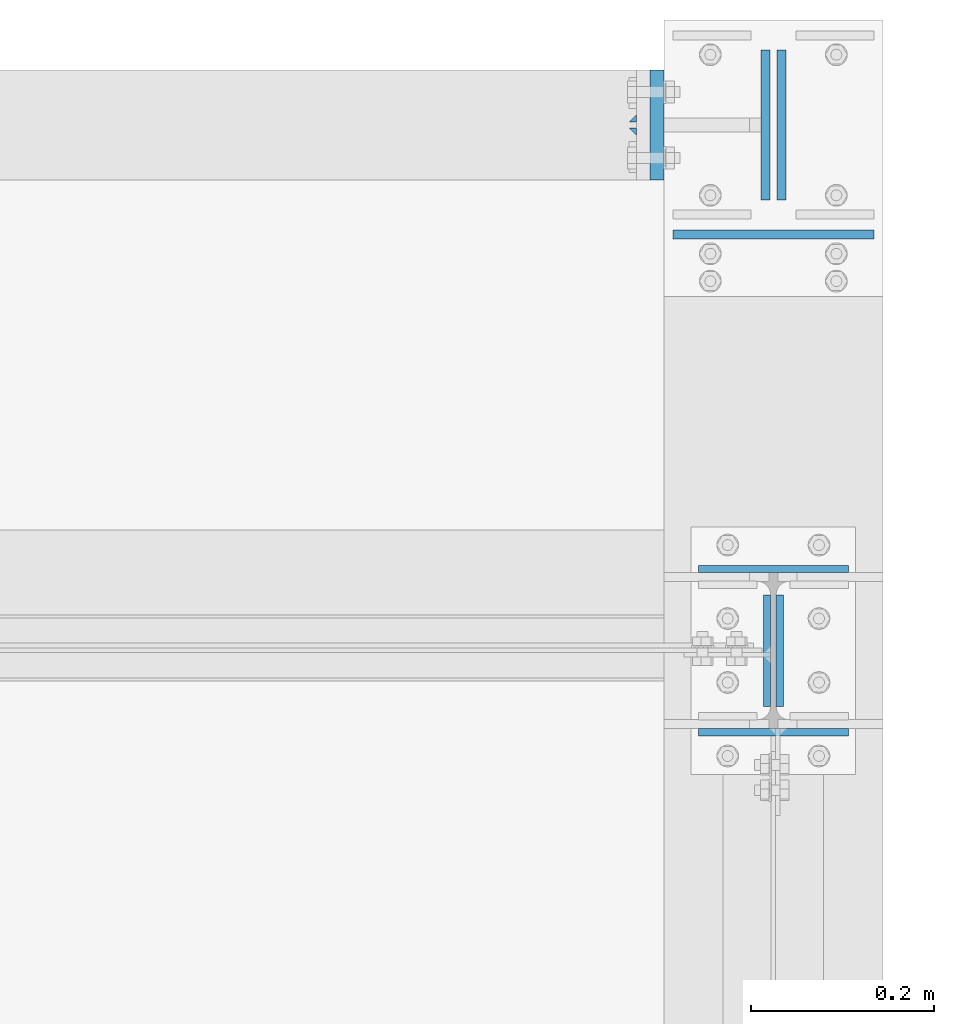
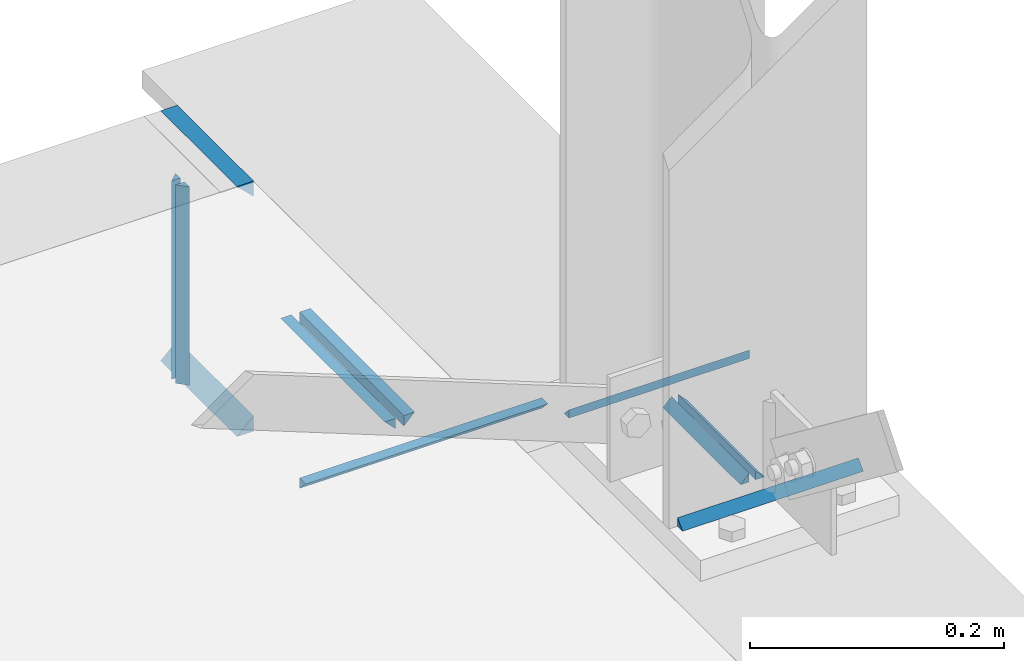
# One storey, part 25 of 66: 20 fasteners.
"""IFC4 building model written with IfcOpenShell, lengths in metres."""

from ifc_helpers import new_model, si_unit, frame, origin_with_axes, place, context, project, spatial, polyline, outline, extrude, type_object, element, save


model = new_model("IFC4")

# Units and contexts
model_context = context("Model", 3, precision=1e-05, world=origin_with_axes())
ifc_project = project(units=[si_unit("LENGTHUNIT", "METRE"), si_unit("AREAUNIT", "SQUARE_METRE"), si_unit("VOLUMEUNIT", "CUBIC_METRE"), si_unit("MASSUNIT", "GRAM", prefix="KILO"), si_unit("TIMEUNIT", "SECOND"), si_unit("PLANEANGLEUNIT", "RADIAN"), si_unit("SOLIDANGLEUNIT", "STERADIAN"), si_unit("THERMODYNAMICTEMPERATUREUNIT", "DEGREE_CELSIUS")], contexts=[model_context])

# Site, building, storey
placement_1 = place(None, origin_with_axes())
site = spatial("IfcSite", under=ifc_project, at=placement_1, Name="Italia", CompositionType="ELEMENT")
building = spatial("IfcBuilding", under=site, at=placement_1, Name="Uffici", CompositionType="ELEMENT")
storey_placement = place(None, frame((0.0, 0.0, 3.299999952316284), z_axis=(0.0, 0.0, 1.0), x_axis=(1.0, 0.0, 0.0)))
storey = spatial("IfcBuildingStorey", under=building, at=storey_placement, Name="Storey 1", CompositionType="ELEMENT", Elevation=3.299999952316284)

# Fasteners
fastener_type_1 = type_object("IfcFastenerType", Name="Collegamenti -005_-004 -015_-014 0115_0114", PredefinedType="WELD")
placement_2 = place(placement_1, origin_with_axes())
fastener_1_placement = place(placement_2, origin_with_axes())
element("IfcFastener", 1, at=fastener_1_placement, inside=storey, type_object=fastener_type_1, Name="Collegamenti -005_-004 -015_-014 0115_0114", context=model_context, shape_type="SweptSolid", body=[
    extrude(outline(polyline([(0.0, 0.0), (0.00792837, 0.00817299), (0.00792837, 0.0), (0.0, 0.0)])), frame((13.8201, 5.37902, 3.08475), z_axis=(0.0, 0.0, 1.0), x_axis=(0.0, 1.0, 0.0)), (0.0, 0.0, 1.0), 0.1905),
])
fastener_type_2 = type_object("IfcFastenerType", Name="Collegamenti -005_-004 -015_-014 0115_0114", PredefinedType="WELD")
fastener_2_placement = place(placement_2, origin_with_axes())
element("IfcFastener", 2, at=fastener_2_placement, inside=storey, type_object=fastener_type_2, Name="Collegamenti -005_-004 -015_-014 0115_0114", context=model_context, shape_type="SweptSolid", body=[
    extrude(outline(polyline([(0.0, 0.0), (-0.00792837, -0.00817299), (-0.00792837, 0.0), (0.0, 0.0)])), frame((13.8201, 5.40098, 3.27525), z_axis=(0.0, 0.0, -1.0), x_axis=(0.0, 1.0, 0.0)), (0.0, 0.0, 1.0), 0.1905),
])
fastener_type_3 = type_object("IfcFastenerType", Name="Collegamenti -005_-004 -015_-014 0115_0114", PredefinedType="WELD")
fastener_3_placement = place(placement_2, origin_with_axes())
element("IfcFastener", 3, at=fastener_3_placement, inside=storey, type_object=fastener_type_3, Name="Collegamenti -005_-004 -015_-014 0115_0114", context=model_context, shape_type="SweptSolid", body=[
    extrude(outline(polyline([(0.0, 0.0), (0.00792837, 0.00817299), (0.00792837, 0.0), (0.0, 0.0)])), frame((13.8201, 5.37902, 3.08475), z_axis=(0.0, 0.0, 1.0), x_axis=(0.0, 1.0, 0.0)), (0.0, 0.0, 1.0), 0.1905),
])
fastener_type_4 = type_object("IfcFastenerType", Name="Collegamenti -005_-004 -015_-014 0115_0114", PredefinedType="WELD")
fastener_4_placement = place(placement_2, origin_with_axes())
element("IfcFastener", 4, at=fastener_4_placement, inside=storey, type_object=fastener_type_4, Name="Collegamenti -005_-004 -015_-014 0115_0114", context=model_context, shape_type="SweptSolid", body=[
    extrude(outline(polyline([(0.0, 0.0), (-0.00792837, -0.00817299), (-0.00792837, 0.0), (0.0, 0.0)])), frame((13.8201, 5.40098, 3.27525), z_axis=(0.0, 0.0, -1.0), x_axis=(0.0, 1.0, 0.0)), (0.0, 0.0, 1.0), 0.1905),
])
fastener_type_5 = type_object("IfcFastenerType", Name="Collegamenti -005_-004 -015_-014 0115_0114", PredefinedType="WELD")
fastener_5_placement = place(placement_2, origin_with_axes())
element("IfcFastener", 5, at=fastener_5_placement, inside=storey, type_object=fastener_type_5, Name="Collegamenti -005_-004 -015_-014 0115_0114", context=model_context, shape_type="SweptSolid", body=[
    extrude(outline(polyline([(0.0, 0.0), (0.015173, -0.0147183), (0.0, -0.0147183), (0.0, 0.0)])), frame((13.8501, 5.32995, 3.07467), z_axis=(0.0, 1.0, 0.0), x_axis=(-1.0, 0.0, 0.0)), (0.0, 0.0, 1.0), 0.1201),
])
fastener_type_6 = type_object("IfcFastenerType", Name="Collegamenti -005_-004 -015_-014 0115_0114", PredefinedType="WELD")
fastener_6_placement = place(placement_2, origin_with_axes())
element("IfcFastener", 6, at=fastener_6_placement, inside=storey, type_object=fastener_type_6, Name="Collegamenti -005_-004 -015_-014 0115_0114", context=model_context, shape_type="SweptSolid", body=[
    extrude(outline(polyline([(0.0, 0.0), (-0.015173, 0.0147183), (0.0, 0.0147183), (0.0, 0.0)])), frame((13.8501, 5.45005, 3.28533), z_axis=(0.0, -1.0, 0.0), x_axis=(1.0, 0.0, 0.0)), (0.0, 0.0, 1.0), 0.1201),
])
fastener_type_7 = type_object("IfcFastenerType", Name="Collegamento 0110_0210", PredefinedType="WELD")
fastener_7_placement = place(placement_2, origin_with_axes())
element("IfcFastener", 7, at=fastener_7_placement, inside=storey, type_object=fastener_type_7, Name="Collegamento 0110_0210", context=model_context, shape_type="SweptSolid", body=[
    extrude(outline(polyline([(0.0, 0.0), (0.00792837, 0.00817347), (0.00792837, 0.0), (0.0, 0.0)])), frame((14.0521, 4.90788, 3.31995), z_axis=(-1.0, 0.0, 0.0), x_axis=(0.0, -1.0, 0.0)), (0.0, 0.0, 1.0), 0.164101),
])
fastener_type_8 = type_object("IfcFastenerType", Name="Collegamento 0110_0210", PredefinedType="WELD")
fastener_8_placement = place(placement_2, origin_with_axes())
element("IfcFastener", 8, at=fastener_8_placement, inside=storey, type_object=fastener_type_8, Name="Collegamento 0110_0210", context=model_context, shape_type="SweptSolid", body=[
    extrude(outline(polyline([(0.0, 0.0), (0.00792837, 0.00817347), (0.00792837, 0.0), (0.0, 0.0)])), frame((13.888, 4.72112, 3.31995), z_axis=(1.0, 0.0, 0.0), x_axis=(0.0, 1.0, 0.0)), (0.0, 0.0, 1.0), 0.164101),
])
fastener_type_9 = type_object("IfcFastenerType", Name="Collegamento 0110_0210", PredefinedType="WELD")
fastener_9_placement = place(placement_2, origin_with_axes())
element("IfcFastener", 9, at=fastener_9_placement, inside=storey, type_object=fastener_type_9, Name="Collegamento 0110_0210", context=model_context, shape_type="SweptSolid", body=[
    extrude(outline(polyline([(0.0, 0.0), (0.00792789, 0.00817347), (0.00792789, 0.0), (0.0, 0.0)])), frame((13.9809, 4.75345, 3.31995), z_axis=(0.0, 1.0, 0.0), x_axis=(-1.0, 0.0, 0.0)), (0.0, 0.0, 1.0), 0.122101),
])
fastener_type_10 = type_object("IfcFastenerType", Name="Collegamento 0110_0210", PredefinedType="WELD")
fastener_10_placement = place(placement_2, origin_with_axes())
element("IfcFastener", 10, at=fastener_10_placement, inside=storey, type_object=fastener_type_10, Name="Collegamento 0110_0210", context=model_context, shape_type="SweptSolid", body=[
    extrude(outline(polyline([(0.0, 0.0), (0.00792789, 0.00817347), (0.00792789, 0.0), (0.0, 0.0)])), frame((13.9591, 4.87555, 3.31995), z_axis=(0.0, -1.0, 0.0), x_axis=(1.0, 0.0, 0.0)), (0.0, 0.0, 1.0), 0.122101),
])
fastener_type_11 = type_object("IfcFastenerType", Name="Collegamento 0110_0210", PredefinedType="WELD")
fastener_11_placement = place(placement_2, origin_with_axes())
element("IfcFastener", 11, at=fastener_11_placement, inside=storey, type_object=fastener_type_11, Name="Collegamento 0110_0210", context=model_context, shape_type="SweptSolid", body=[
    extrude(outline(polyline([(0.0, 0.0), (0.00792837, 0.00817347), (0.00792837, 0.0), (0.0, 0.0)])), frame((14.0521, 4.90788, 3.31995), z_axis=(-1.0, 0.0, 0.0), x_axis=(0.0, -1.0, 0.0)), (0.0, 0.0, 1.0), 0.164101),
])
fastener_type_12 = type_object("IfcFastenerType", Name="Collegamento 0110_0210", PredefinedType="WELD")
fastener_12_placement = place(placement_2, origin_with_axes())
element("IfcFastener", 12, at=fastener_12_placement, inside=storey, type_object=fastener_type_12, Name="Collegamento 0110_0210", context=model_context, shape_type="SweptSolid", body=[
    extrude(outline(polyline([(0.0, 0.0), (0.00792837, 0.00817347), (0.00792837, 0.0), (0.0, 0.0)])), frame((13.888, 4.72112, 3.31995), z_axis=(1.0, 0.0, 0.0), x_axis=(0.0, 1.0, 0.0)), (0.0, 0.0, 1.0), 0.164101),
])
fastener_type_13 = type_object("IfcFastenerType", Name="Collegamento 0110_0210", PredefinedType="WELD")
fastener_13_placement = place(placement_2, origin_with_axes())
element("IfcFastener", 13, at=fastener_13_placement, inside=storey, type_object=fastener_type_13, Name="Collegamento 0110_0210", context=model_context, shape_type="SweptSolid", body=[
    extrude(outline(polyline([(0.0, 0.0), (0.00792789, 0.00817347), (0.00792789, 0.0), (0.0, 0.0)])), frame((13.9809, 4.75345, 3.31995), z_axis=(0.0, 1.0, 0.0), x_axis=(-1.0, 0.0, 0.0)), (0.0, 0.0, 1.0), 0.122101),
])
fastener_type_14 = type_object("IfcFastenerType", Name="Collegamento 0110_0210", PredefinedType="WELD")
fastener_14_placement = place(placement_2, origin_with_axes())
element("IfcFastener", 14, at=fastener_14_placement, inside=storey, type_object=fastener_type_14, Name="Collegamento 0110_0210", context=model_context, shape_type="SweptSolid", body=[
    extrude(outline(polyline([(0.0, 0.0), (0.00792789, 0.00817347), (0.00792789, 0.0), (0.0, 0.0)])), frame((13.9591, 4.87555, 3.31995), z_axis=(0.0, -1.0, 0.0), x_axis=(1.0, 0.0, 0.0)), (0.0, 0.0, 1.0), 0.122101),
])
fastener_type_15 = type_object("IfcFastenerType", Name="Collegamenti 0111_0011 0112_0012 0113_0013 0114_0014 0115_0015", PredefinedType="WELD")
fastener_15_placement = place(placement_2, origin_with_axes())
element("IfcFastener", 15, at=fastener_15_placement, inside=storey, type_object=fastener_type_15, Name="Collegamenti 0111_0011 0112_0012 0113_0013 0114_0014 0115_0015", context=model_context, shape_type="SweptSolid", body=[
    extrude(outline(polyline([(0.0, 0.0), (-0.00986814, -0.0101733), (-0.00986814, 0.0), (0.0, 0.0)])), frame((14.0801, 5.26518, 3.04505), z_axis=(-1.0, 0.0, 0.0), x_axis=(0.0, -1.0, 0.0)), (0.0, 0.0, 1.0), 0.2201),
])
fastener_type_16 = type_object("IfcFastenerType", Name="Collegamenti 0111_0011 0112_0012 0113_0013 0114_0014 0115_0015", PredefinedType="WELD")
fastener_16_placement = place(placement_2, origin_with_axes())
element("IfcFastener", 16, at=fastener_16_placement, inside=storey, type_object=fastener_type_16, Name="Collegamenti 0111_0011 0112_0012 0113_0013 0114_0014 0115_0015", context=model_context, shape_type="SweptSolid", body=[
    extrude(outline(polyline([(0.0, 0.0), (-0.00986767, -0.0101733), (-0.00986767, 0.0), (0.0, 0.0)])), frame((13.9836, 5.47205, 3.04505), z_axis=(0.0, -1.0, 0.0), x_axis=(1.0, 0.0, 0.0)), (0.0, 0.0, 1.0), 0.164101),
])
fastener_type_17 = type_object("IfcFastenerType", Name="Collegamenti 0111_0011 0112_0012 0113_0013 0114_0014 0115_0015", PredefinedType="WELD")
fastener_17_placement = place(placement_2, origin_with_axes())
element("IfcFastener", 17, at=fastener_17_placement, inside=storey, type_object=fastener_type_17, Name="Collegamenti 0111_0011 0112_0012 0113_0013 0114_0014 0115_0015", context=model_context, shape_type="SweptSolid", body=[
    extrude(outline(polyline([(0.0, 0.0), (-0.00986767, -0.0101733), (-0.00986767, 0.0), (0.0, 0.0)])), frame((13.9564, 5.30795, 3.04505), z_axis=(0.0, 1.0, 0.0), x_axis=(-1.0, 0.0, 0.0)), (0.0, 0.0, 1.0), 0.164101),
])
fastener_type_18 = type_object("IfcFastenerType", Name="Collegamenti 0111_0011 0112_0012 0113_0013 0114_0014 0115_0015", PredefinedType="WELD")
fastener_18_placement = place(placement_2, origin_with_axes())
element("IfcFastener", 18, at=fastener_18_placement, inside=storey, type_object=fastener_type_18, Name="Collegamenti 0111_0011 0112_0012 0113_0013 0114_0014 0115_0015", context=model_context, shape_type="SweptSolid", body=[
    extrude(outline(polyline([(0.0, 0.0), (-0.00986814, -0.0101733), (-0.00986814, 0.0), (0.0, 0.0)])), frame((14.0801, 5.26518, 3.04505), z_axis=(-1.0, 0.0, 0.0), x_axis=(0.0, -1.0, 0.0)), (0.0, 0.0, 1.0), 0.2201),
])
fastener_type_19 = type_object("IfcFastenerType", Name="Collegamenti 0111_0011 0112_0012 0113_0013 0114_0014 0115_0015", PredefinedType="WELD")
fastener_19_placement = place(placement_2, origin_with_axes())
element("IfcFastener", 19, at=fastener_19_placement, inside=storey, type_object=fastener_type_19, Name="Collegamenti 0111_0011 0112_0012 0113_0013 0114_0014 0115_0015", context=model_context, shape_type="SweptSolid", body=[
    extrude(outline(polyline([(0.0, 0.0), (-0.00986767, -0.0101733), (-0.00986767, 0.0), (0.0, 0.0)])), frame((13.9836, 5.47205, 3.04505), z_axis=(0.0, -1.0, 0.0), x_axis=(1.0, 0.0, 0.0)), (0.0, 0.0, 1.0), 0.164101),
])
fastener_type_20 = type_object("IfcFastenerType", Name="Collegamenti 0111_0011 0112_0012 0113_0013 0114_0014 0115_0015", PredefinedType="WELD")
fastener_20_placement = place(placement_2, origin_with_axes())
element("IfcFastener", 20, at=fastener_20_placement, inside=storey, type_object=fastener_type_20, Name="Collegamenti 0111_0011 0112_0012 0113_0013 0114_0014 0115_0015", context=model_context, shape_type="SweptSolid", body=[
    extrude(outline(polyline([(0.0, 0.0), (-0.00986767, -0.0101733), (-0.00986767, 0.0), (0.0, 0.0)])), frame((13.9564, 5.30795, 3.04505), z_axis=(0.0, 1.0, 0.0), x_axis=(-1.0, 0.0, 0.0)), (0.0, 0.0, 1.0), 0.164101),
])

save(model, "model.ifc")
